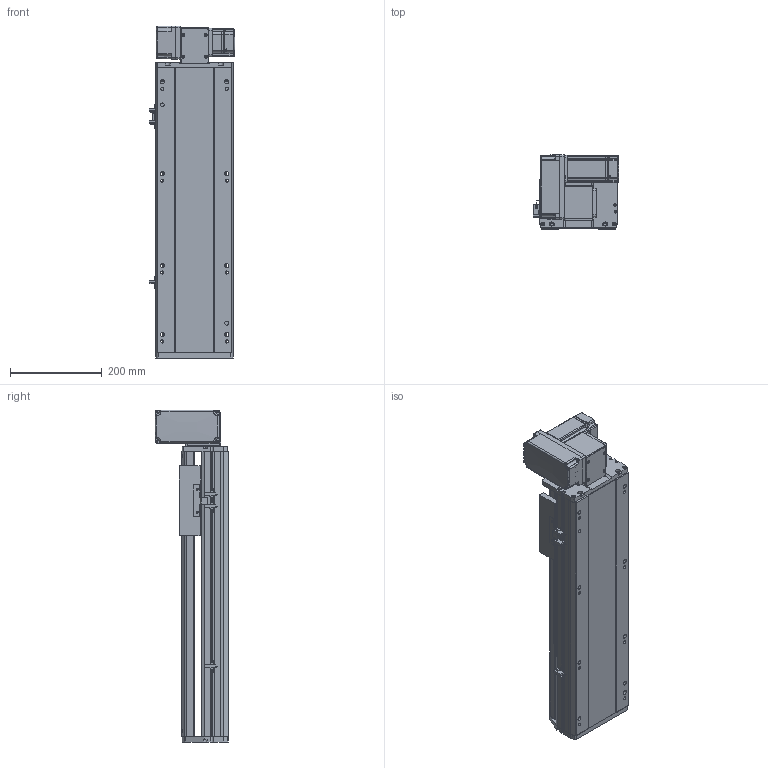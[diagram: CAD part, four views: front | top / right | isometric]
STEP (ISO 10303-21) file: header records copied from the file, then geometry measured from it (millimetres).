
FILE_DESCRIPTION (( 'STEP AP214' ), '1' );
FILE_NAME ('RTB17S-XX-350-LW-M40-C4.STEP', '2025-12-11T06:56:32', ( '' ), ( '' ), 'SwSTEP 2.0', 'SolidWorks 2018', '' );
FILE_SCHEMA (( 'AUTOMOTIVE_DESIGN' ));
Length unit declared in the file: millimetre
Products named in the file (14): RTB17S-L-014-T20--々湍釱^RTB17S-LW-々湍釱蚾饜-400W_RTB17S-XX-XX-LW-M40-C4; RTH13-BL-012覜茼え俋离^RTB17S-XX-XX-LW-M40-C4; RTB14-L-008-M20--萇儂啣^RTB17S-LW-々湍釱蚾饜-400W_RTB17S-XX-XX-LW-M40-C4; 400W侜督萇儂^RTB17S-XX-XX-LW-M40-C4; OMRON EE-SX672 传感器^RTB17S-XX-XX-LW-M40-C4; RTB17-R-011菁釱^RTB17S-XX-XX-LW-M40-C4; RTB14-L-005P--轴承塑胶压盖^RTB17S-LW-皮带座装配-400W_RTB17S-XX-XX-LW-M40-C4; RTB17S-LW-々湍釱蚾饜-400W^RTB17S-XX-XX-LW-M40-C4; RTB17S-L-007奻裔^RTB17S-XX-XX-LW-M40-C4; RTB14-L-018P^RTB17S-LW-々湍釱蚾饜-400W_RTB17S-XX-XX-LW-M40-C4; RTB14-L-017P^RTB17S-LW-々湍釱蚾饜-400W_RTB17S-XX-XX-LW-M40-C4; RTB17S-L-004佪裝蹟譫蟀諉釱^RTB17S-XX-XX-LW-M40-C4; RTB17S-XX-350-LW-M40-C4; RTB17S-L-001耜醱啣^RTB17S-XX-XX-LW-M40-C4
Assembly tree (16 placements, depth 3):
  RTB17S-XX-350-LW-M40-C4
    RTB17-R-011菁釱^RTB17S-XX-XX-LW-M40-C4
    RTB17S-L-007奻裔^RTB17S-XX-XX-LW-M40-C4
    OMRON EE-SX672 传感器^RTB17S-XX-XX-LW-M40-C4  x3
    RTB17S-L-001耜醱啣^RTB17S-XX-XX-LW-M40-C4
    400W侜督萇儂^RTB17S-XX-XX-LW-M40-C4
    RTB17S-L-004佪裝蹟譫蟀諉釱^RTB17S-XX-XX-LW-M40-C4
    RTH13-BL-012覜茼え俋离^RTB17S-XX-XX-LW-M40-C4
    RTB17S-LW-々湍釱蚾饜-400W^RTB17S-XX-XX-LW-M40-C4
      RTB17S-L-014-T20--々湍釱^RTB17S-LW-々湍釱蚾饜-400W_RTB17S-XX-XX-LW-M40-C4
      RTB14-L-005P--轴承塑胶压盖^RTB17S-LW-皮带座装配-400W_RTB17S-XX-XX-LW-M40-C4
      RTB14-L-008-M20--萇儂啣^RTB17S-LW-々湍釱蚾饜-400W_RTB17S-XX-XX-LW-M40-C4
      RTB14-L-017P^RTB17S-LW-々湍釱蚾饜-400W_RTB17S-XX-XX-LW-M40-C4  x2
      RTB14-L-018P^RTB17S-LW-々湍釱蚾饜-400W_RTB17S-XX-XX-LW-M40-C4
Bounding box: 186 x 160.5 x 722.5 mm (x, y, z)
Volume: 7073678.8 mm3; surface area: 920025.4 mm2
Topology: 15 solids, 15 shells, 2157 faces, 5925 edges, 3861 vertices
Faces by surface type: plane 1062, cylinder 647, bspline 301, cone 139, torus 8
Entity records: 60329 total; most frequent: CARTESIAN_POINT 16730, ORIENTED_EDGE 8694, DIRECTION 8126, EDGE_CURVE 4347, VERTEX_POINT 2849, AXIS2_PLACEMENT_3D 2779, VECTOR 2568, LINE 2568
